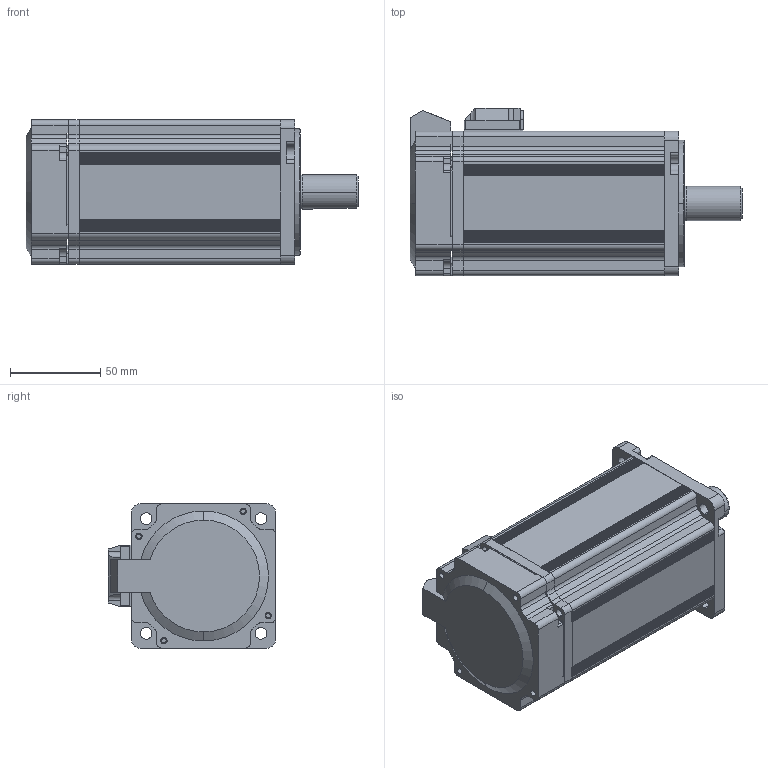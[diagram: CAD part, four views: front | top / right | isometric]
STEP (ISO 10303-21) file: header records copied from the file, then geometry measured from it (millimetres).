
FILE_DESCRIPTION (( 'STEP AP203' ), '1' );
FILE_NAME ('MS6H-80CS(M)20B2-20P7.STEP', '2020-09-09T07:02:07', ( '' ), ( '' ), 'SwSTEP 2.0', 'SolidWorks 2016', '' );
FILE_SCHEMA (( 'CONFIG_CONTROL_DESIGN' ));
Length unit declared in the file: millimetre
Products named in the file (1): MS6H-80CS(M)20B2-20P7
Bounding box: 184 x 92.8 x 80 mm (x, y, z)
Surface area: 76279.9 mm2 (no closed solid volume)
Topology: 0 solids, 300 shells, 1396 faces, 4454 edges, 3323 vertices
Faces by surface type: cylinder 834, plane 462, cone 32, sphere 28, bspline 25, torus 15
Entity records: 49908 total; most frequent: CARTESIAN_POINT 10449, DIRECTION 9016, ORIENTED_EDGE 6370, EDGE_CURVE 4454, VERTEX_POINT 3323, AXIS2_PLACEMENT_3D 3276, VECTOR 2464, LINE 2464
